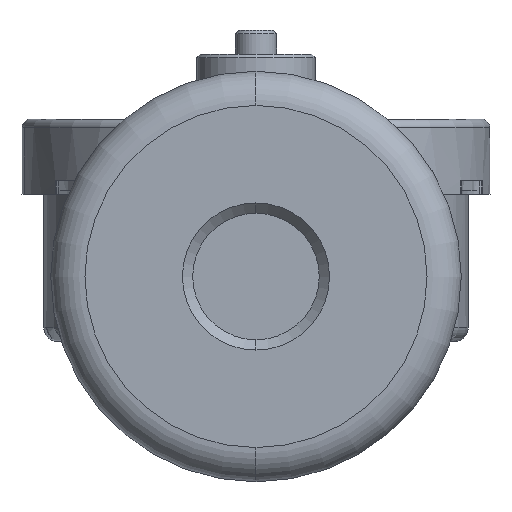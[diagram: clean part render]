
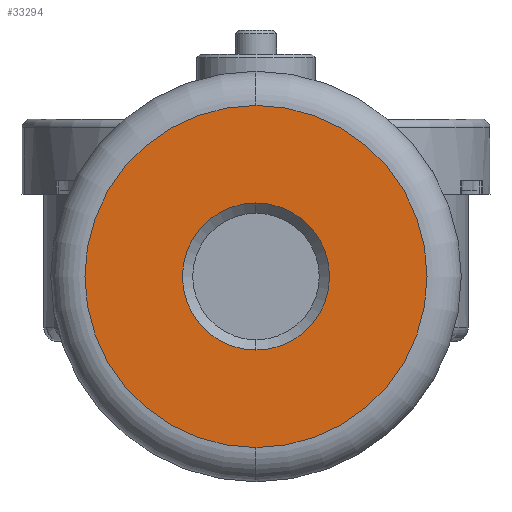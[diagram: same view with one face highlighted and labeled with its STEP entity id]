
A CAD part, front view. The second image highlights one B-rep face of the part: STEP entity #33294.
In plain terms, the highlighted planar face has unit normal (0, -1, 0).
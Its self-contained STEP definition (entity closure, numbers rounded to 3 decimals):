
#1133 = DIRECTION ( 'NONE',  ( 0., 1., 0. ) ) ;
#1336 = CARTESIAN_POINT ( 'NONE',  ( 22.574, -6.551, 75.276 ) ) ;
#1707 = DIRECTION ( 'NONE',  ( 0., 0., 1. ) ) ;
#2814 = ORIENTED_EDGE ( 'NONE', *, *, #45709, .T. ) ;
#4232 = CARTESIAN_POINT ( 'NONE',  ( 22.574, -6.551, 39.526 ) ) ;
#5375 = VERTEX_POINT ( 'NONE', #4232 ) ;
#5707 = VERTEX_POINT ( 'NONE', #21800 ) ;
#6331 = AXIS2_PLACEMENT_3D ( 'NONE', #20575, #45855, #30315 ) ;
#10152 = PLANE ( 'NONE',  #31821 ) ;
#10326 = ORIENTED_EDGE ( 'NONE', *, *, #60918, .T. ) ;
#11477 = DIRECTION ( 'NONE',  ( 0., 1., 0. ) ) ;
#12543 = CIRCLE ( 'NONE', #53046, 25. ) ;
#14641 = CIRCLE ( 'NONE', #34385, 10.75 ) ;
#14682 = ORIENTED_EDGE ( 'NONE', *, *, #36193, .T. ) ;
#20509 = DIRECTION ( 'NONE',  ( 0., 0., -1. ) ) ;
#20575 = CARTESIAN_POINT ( 'NONE',  ( 22.574, -6.551, 64.526 ) ) ;
#21800 = CARTESIAN_POINT ( 'NONE',  ( 22.574, -6.551, 53.776 ) ) ;
#23196 = EDGE_LOOP ( 'NONE', ( #10326, #42654 ) ) ;
#26499 = CARTESIAN_POINT ( 'NONE',  ( 22.574, -6.551, 64.526 ) ) ;
#29827 = AXIS2_PLACEMENT_3D ( 'NONE', #50780, #60526, #1707 ) ;
#30315 = DIRECTION ( 'NONE',  ( 0., 0., -1. ) ) ;
#31669 = CARTESIAN_POINT ( 'NONE',  ( 22.574, -6.551, 64.526 ) ) ;
#31821 = AXIS2_PLACEMENT_3D ( 'NONE', #31669, #11477, #55685 ) ;
#33294 = ADVANCED_FACE ( 'NONE', ( #45270, #40403 ), #10152, .F. ) ;
#34385 = AXIS2_PLACEMENT_3D ( 'NONE', #26499, #1133, #40781 ) ;
#34398 = CIRCLE ( 'NONE', #6331, 25. ) ;
#36193 = EDGE_CURVE ( 'NONE', #5375, #45910, #34398, .T. ) ;
#39804 = CARTESIAN_POINT ( 'NONE',  ( 22.574, -6.551, 89.526 ) ) ;
#39963 = DIRECTION ( 'NONE',  ( 0., -1., 0. ) ) ;
#40403 = FACE_BOUND ( 'NONE', #23196, .T. ) ;
#40781 = DIRECTION ( 'NONE',  ( 0., 0., 1. ) ) ;
#42654 = ORIENTED_EDGE ( 'NONE', *, *, #46014, .T. ) ;
#43980 = EDGE_LOOP ( 'NONE', ( #14682, #2814 ) ) ;
#44804 = CARTESIAN_POINT ( 'NONE',  ( 22.574, -6.551, 64.526 ) ) ;
#45270 = FACE_OUTER_BOUND ( 'NONE', #43980, .T. ) ;
#45709 = EDGE_CURVE ( 'NONE', #45910, #5375, #12543, .T. ) ;
#45855 = DIRECTION ( 'NONE',  ( 0., -1., 0. ) ) ;
#45910 = VERTEX_POINT ( 'NONE', #39804 ) ;
#46014 = EDGE_CURVE ( 'NONE', #55375, #5707, #14641, .T. ) ;
#50547 = CIRCLE ( 'NONE', #29827, 10.75 ) ;
#50780 = CARTESIAN_POINT ( 'NONE',  ( 22.574, -6.551, 64.526 ) ) ;
#53046 = AXIS2_PLACEMENT_3D ( 'NONE', #44804, #39963, #20509 ) ;
#55375 = VERTEX_POINT ( 'NONE', #1336 ) ;
#55685 = DIRECTION ( 'NONE',  ( 1., 0., 0. ) ) ;
#60526 = DIRECTION ( 'NONE',  ( 0., 1., 0. ) ) ;
#60918 = EDGE_CURVE ( 'NONE', #5707, #55375, #50547, .T. ) ;
